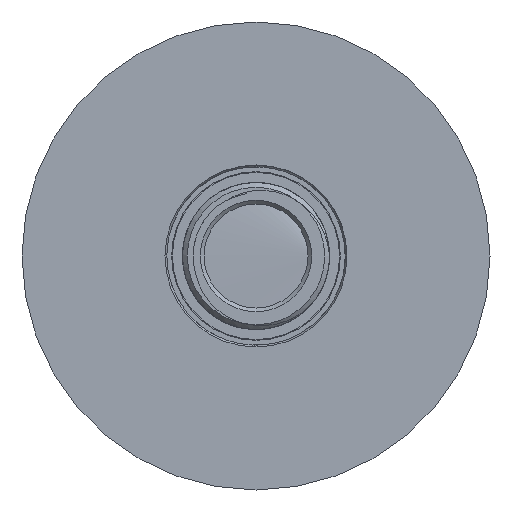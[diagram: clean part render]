
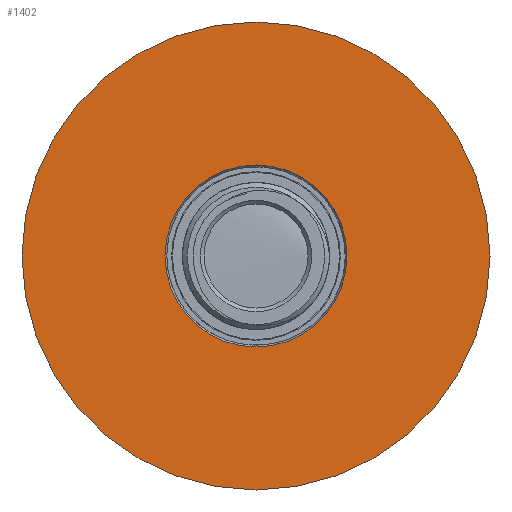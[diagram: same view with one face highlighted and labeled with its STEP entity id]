
A CAD part, front view. The second image highlights one B-rep face of the part: STEP entity #1402.
In plain terms, the highlighted planar face has unit normal (0, -1, 0).
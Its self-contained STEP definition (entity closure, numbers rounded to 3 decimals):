
#100=FACE_BOUND('',#421,.T.);
#118=PLANE('',#1531);
#328=FACE_OUTER_BOUND('',#420,.T.);
#420=EDGE_LOOP('',(#1018));
#421=EDGE_LOOP('',(#1019));
#508=CIRCLE('',#1497,12.25);
#528=CIRCLE('',#1530,31.5);
#594=VERTEX_POINT('',#2054);
#613=VERTEX_POINT('',#2114);
#742=EDGE_CURVE('',#594,#594,#508,.T.);
#769=EDGE_CURVE('',#613,#613,#528,.T.);
#1018=ORIENTED_EDGE('',*,*,#769,.F.);
#1019=ORIENTED_EDGE('',*,*,#742,.F.);
#1402=ADVANCED_FACE('',(#328,#100),#118,.T.);
#1497=AXIS2_PLACEMENT_3D('',#2056,#1670,#1671);
#1530=AXIS2_PLACEMENT_3D('',#2115,#1743,#1744);
#1531=AXIS2_PLACEMENT_3D('',#2117,#1746,#1747);
#1670=DIRECTION('center_axis',(0.,-1.,0.));
#1671=DIRECTION('ref_axis',(-1.,0.,0.));
#1743=DIRECTION('center_axis',(0.,1.,0.));
#1744=DIRECTION('ref_axis',(-1.,0.,0.));
#1746=DIRECTION('center_axis',(0.,-1.,0.));
#1747=DIRECTION('ref_axis',(-1.,0.,0.));
#2054=CARTESIAN_POINT('',(24.447,160.5,-12.192));
#2056=CARTESIAN_POINT('Origin',(12.197,160.5,-12.192));
#2114=CARTESIAN_POINT('',(43.697,160.5,-12.192));
#2115=CARTESIAN_POINT('Origin',(12.197,160.5,-12.192));
#2117=CARTESIAN_POINT('Origin',(12.197,160.5,-12.192));
